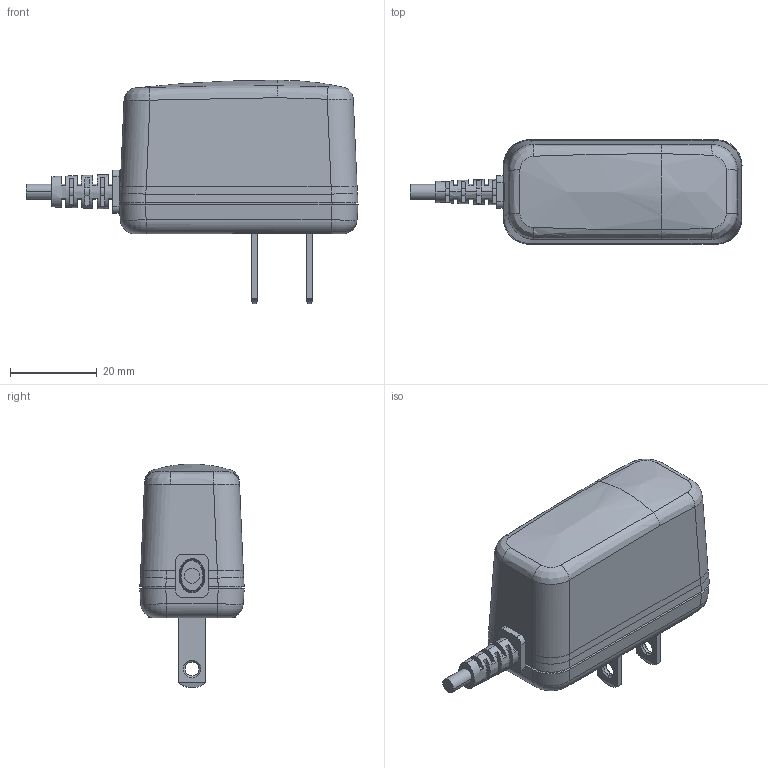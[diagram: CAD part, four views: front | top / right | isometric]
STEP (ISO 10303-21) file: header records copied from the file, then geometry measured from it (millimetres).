
FILE_DESCRIPTION (( 'STEP AP214' ), '1' );
FILE_NAME ('VEL05-US-UB.STEP', '2022-05-26T14:18:35', ( '' ), ( '' ), 'SwSTEP 2.0', 'SolidWorks 2022', '' );
FILE_SCHEMA (( 'AUTOMOTIVE_DESIGN' ));
Length unit declared in the file: inch
Products named in the file (12): VEL05-US-UB; MANIFOLD_SOLID_BREP_24853; MANIFOLD_SOLID_BREP_23131; VEL05 US Body; UL-SPRING-MASTER_1; UL-NEW_1_ASM; UL-SPRING_6; SPRING-MASTER-1_1; TOP-SR_39; BOT-UL_ASM_3_ASM; BOT-UL_4; SR_2
Assembly tree (12 placements, depth 5):
  VEL05-US-UB
    VEL05 US Body
      BOT-UL_ASM_3_ASM
        BOT-UL_4
        UL-NEW_1_ASM
          MANIFOLD_SOLID_BREP_23131
          MANIFOLD_SOLID_BREP_24853
        UL-SPRING-MASTER_1
        SPRING-MASTER-1_1
        UL-SPRING_6  x2
      TOP-SR_39
      SR_2
Bounding box: 76.65 x 24.1 x 51.57 mm (x, y, z)
Volume: 18897.2 mm3; surface area: 17945.7 mm2
Topology: 9 solids, 13 shells, 1232 faces, 3319 edges, 2153 vertices
Faces by surface type: plane 708, cylinder 335, bspline 125, cone 56, torus 8
Entity records: 49978 total; most frequent: CARTESIAN_POINT 19384, ORIENTED_EDGE 6406, DIRECTION 4021, EDGE_CURVE 3203, VERTEX_POINT 2077, B_SPLINE_CURVE_WITH_KNOTS 1534, VECTOR 1397, LINE 1397
